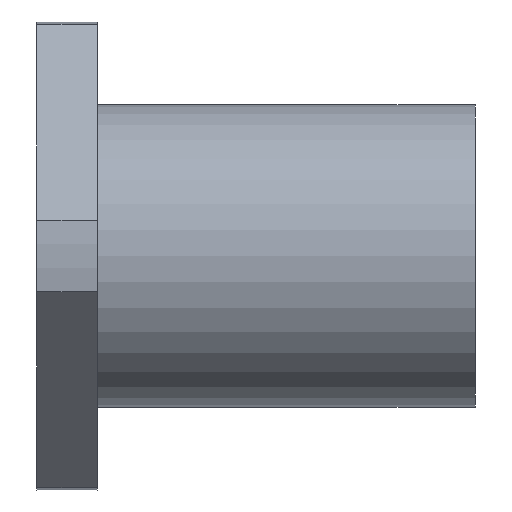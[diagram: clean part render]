
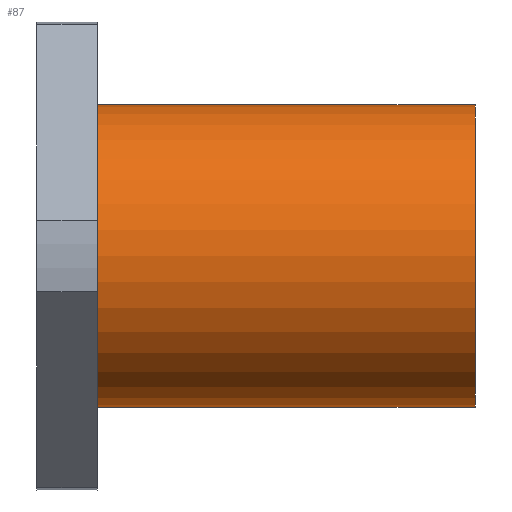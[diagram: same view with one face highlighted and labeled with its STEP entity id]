
A CAD part, front view. The second image highlights one B-rep face of the part: STEP entity #87.
In plain terms, the highlighted cylindrical face has radius 20 mm (diameter 40 mm), a full revolution.
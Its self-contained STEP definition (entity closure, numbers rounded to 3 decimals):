
#87 = ADVANCED_FACE( '', ( #138, #139 ), #140, .T. );
#138 = FACE_OUTER_BOUND( '', #213, .T. );
#139 = FACE_OUTER_BOUND( '', #214, .T. );
#140 = CYLINDRICAL_SURFACE( '', #215, 20. );
#213 = EDGE_LOOP( '', ( #347 ) );
#214 = EDGE_LOOP( '', ( #348 ) );
#215 = AXIS2_PLACEMENT_3D( '', #349, #350, #351 );
#347 = ORIENTED_EDGE( '', *, *, #438, .T. );
#348 = ORIENTED_EDGE( '', *, *, #450, .F. );
#349 = CARTESIAN_POINT( '', ( 58., 0., 0. ) );
#350 = DIRECTION( '', ( -1., 0., 0. ) );
#351 = DIRECTION( '', ( 0., 0., -1. ) );
#438 = EDGE_CURVE( '', #500, #500, #501, .T. );
#450 = EDGE_CURVE( '', #522, #522, #523, .T. );
#500 = VERTEX_POINT( '', #594 );
#501 = CIRCLE( '', #595, 20. );
#522 = VERTEX_POINT( '', #618 );
#523 = CIRCLE( '', #619, 20. );
#594 = CARTESIAN_POINT( '', ( 8., 0., -20. ) );
#595 = AXIS2_PLACEMENT_3D( '', #678, #679, #680 );
#618 = CARTESIAN_POINT( '', ( 58., 0., -20. ) );
#619 = AXIS2_PLACEMENT_3D( '', #710, #711, #712 );
#678 = CARTESIAN_POINT( '', ( 8., 0., 0. ) );
#679 = DIRECTION( '', ( 1., 0., 0. ) );
#680 = DIRECTION( '', ( 0., 0., -1. ) );
#710 = CARTESIAN_POINT( '', ( 58., 0., 0. ) );
#711 = DIRECTION( '', ( 1., 0., 0. ) );
#712 = DIRECTION( '', ( 0., 0., -1. ) );
